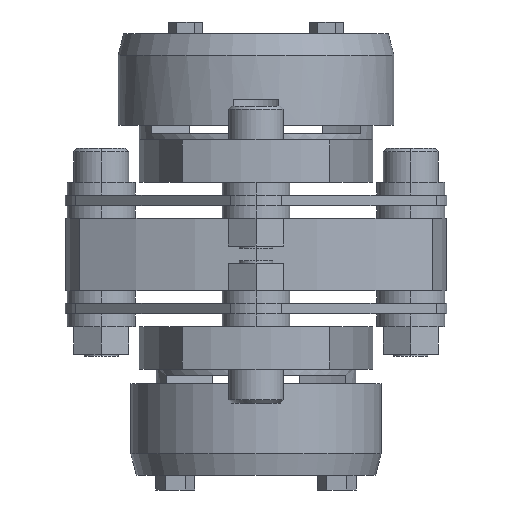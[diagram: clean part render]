
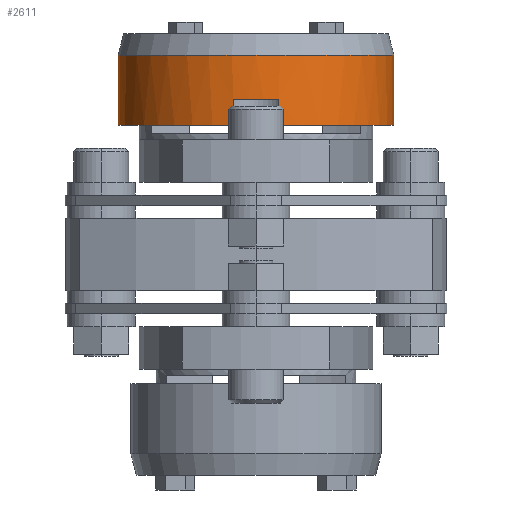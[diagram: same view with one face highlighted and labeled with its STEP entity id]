
A CAD part, left-side view. The second image highlights one B-rep face of the part: STEP entity #2611.
In plain terms, the highlighted cylindrical face has radius 32.5 mm (diameter 65 mm), a partial arc.
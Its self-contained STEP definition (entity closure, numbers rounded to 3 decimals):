
#2439=CARTESIAN_POINT('',(0.,-32.5,47.0));
#2440=VERTEX_POINT('',#2439);
#2456=CARTESIAN_POINT('',(0.,32.5,47.0));
#2457=VERTEX_POINT('',#2456);
#2464=CARTESIAN_POINT('',(0.,0.,47.0));
#2465=DIRECTION('',(0.0,0.0,1.0));
#2466=DIRECTION('',(0.0,-1.0,0.0));
#2467=AXIS2_PLACEMENT_3D('',#2464,#2465,#2466);
#2468=CIRCLE('',#2467,32.5);
#2469=EDGE_CURVE('',#2457,#2440,#2468,.T.);
#2546=CARTESIAN_POINT('',(0.,0.,30.5));
#2547=DIRECTION('',(0.0,0.0,1.0));
#2548=DIRECTION('',(0.0,1.0,0.0));
#2549=AXIS2_PLACEMENT_3D('',#2546,#2547,#2548);
#2550=CYLINDRICAL_SURFACE('',#2549,32.5);
#2551=CARTESIAN_POINT('',(0.,32.5,30.5));
#2552=VERTEX_POINT('',#2551);
#2553=CARTESIAN_POINT('',(0.,32.5,30.5));
#2554=DIRECTION('',(0.0,0.0,1.0));
#2555=VECTOR('',#2554,16.5);
#2556=LINE('',#2553,#2555);
#2557=EDGE_CURVE('',#2552,#2457,#2556,.T.);
#2558=ORIENTED_EDGE('',*,*,#2557,.F.);
#2559=CARTESIAN_POINT('',(-32.048,5.402,30.5));
#2560=VERTEX_POINT('',#2559);
#2561=CARTESIAN_POINT('',(0.,0.,30.5));
#2562=DIRECTION('',(0.0,0.0,1.0));
#2563=DIRECTION('',(0.0,1.0,0.0));
#2564=AXIS2_PLACEMENT_3D('',#2561,#2562,#2563);
#2565=CIRCLE('',#2564,32.5);
#2566=EDGE_CURVE('',#2552,#2560,#2565,.T.);
#2567=ORIENTED_EDGE('',*,*,#2566,.T.);
#2568=CARTESIAN_POINT('',(-32.048,5.402,36.5));
#2569=VERTEX_POINT('',#2568);
#2570=CARTESIAN_POINT('',(-32.048,5.402,30.5));
#2571=DIRECTION('',(0.0,0.0,1.0));
#2572=VECTOR('',#2571,6.0);
#2573=LINE('',#2570,#2572);
#2574=EDGE_CURVE('',#2560,#2569,#2573,.T.);
#2575=ORIENTED_EDGE('',*,*,#2574,.T.);
#2576=CARTESIAN_POINT('',(-32.048,-5.402,36.5));
#2577=VERTEX_POINT('',#2576);
#2578=CARTESIAN_POINT('',(0.,0.,36.5));
#2579=DIRECTION('',(0.0,0.0,1.0));
#2580=DIRECTION('',(0.0,1.0,0.0));
#2581=AXIS2_PLACEMENT_3D('',#2578,#2579,#2580);
#2582=CIRCLE('',#2581,32.5);
#2583=EDGE_CURVE('',#2569,#2577,#2582,.T.);
#2584=ORIENTED_EDGE('',*,*,#2583,.T.);
#2585=CARTESIAN_POINT('',(-32.048,-5.402,30.5));
#2586=VERTEX_POINT('',#2585);
#2587=CARTESIAN_POINT('',(-32.048,-5.402,36.5));
#2588=DIRECTION('',(0.0,0.0,-1.0));
#2589=VECTOR('',#2588,6.0);
#2590=LINE('',#2587,#2589);
#2591=EDGE_CURVE('',#2577,#2586,#2590,.T.);
#2592=ORIENTED_EDGE('',*,*,#2591,.T.);
#2593=CARTESIAN_POINT('',(0.,-32.5,30.5));
#2594=VERTEX_POINT('',#2593);
#2595=CARTESIAN_POINT('',(0.,0.,30.5));
#2596=DIRECTION('',(0.0,0.0,1.0));
#2597=DIRECTION('',(0.0,1.0,0.0));
#2598=AXIS2_PLACEMENT_3D('',#2595,#2596,#2597);
#2599=CIRCLE('',#2598,32.5);
#2600=EDGE_CURVE('',#2586,#2594,#2599,.T.);
#2601=ORIENTED_EDGE('',*,*,#2600,.T.);
#2602=CARTESIAN_POINT('',(0.,-32.5,47.0));
#2603=DIRECTION('',(0.0,0.0,-1.0));
#2604=VECTOR('',#2603,16.5);
#2605=LINE('',#2602,#2604);
#2606=EDGE_CURVE('',#2440,#2594,#2605,.T.);
#2607=ORIENTED_EDGE('',*,*,#2606,.F.);
#2608=ORIENTED_EDGE('',*,*,#2469,.F.);
#2609=EDGE_LOOP('',(#2558,#2567,#2575,#2584,#2592,#2601,#2607,#2608));
#2610=FACE_OUTER_BOUND('',#2609,.T.);
#2611=ADVANCED_FACE('',(#2610),#2550,.T.);
